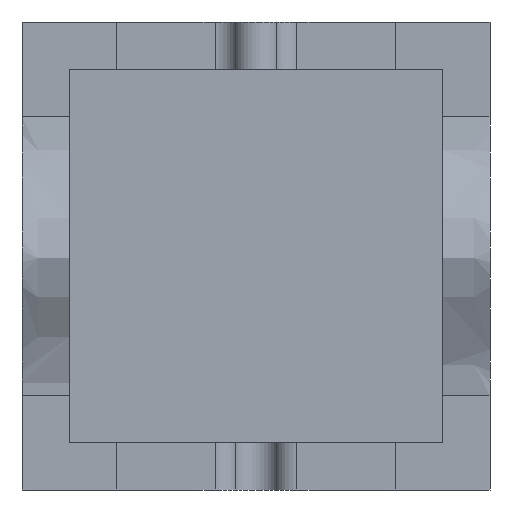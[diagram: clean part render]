
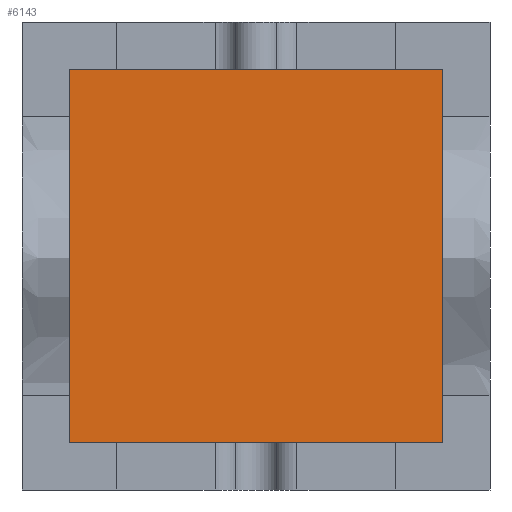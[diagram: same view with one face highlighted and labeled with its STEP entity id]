
A CAD part, front view. The second image highlights one B-rep face of the part: STEP entity #6143.
In plain terms, the highlighted planar face has unit normal (0, -1, 0).
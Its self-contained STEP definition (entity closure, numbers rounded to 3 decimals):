
#6017=CARTESIAN_POINT('Vertex',(-20.,-30.,-20.)) ;
#6022=CARTESIAN_POINT('Line Origine',(-20.,-30.,59.)) ;
#6026=CARTESIAN_POINT('Vertex',(-20.,-30.,138.)) ;
#6053=CARTESIAN_POINT('Line Origine',(59.,-30.,138.)) ;
#6057=CARTESIAN_POINT('Vertex',(138.,-30.,138.)) ;
#6084=CARTESIAN_POINT('Line Origine',(138.,-30.,59.)) ;
#6088=CARTESIAN_POINT('Vertex',(138.,-30.,-20.)) ;
#6115=CARTESIAN_POINT('Line Origine',(59.,-30.,-20.)) ;
#6132=CARTESIAN_POINT('Axis2P3D Location',(0.,-30.,0.)) ;
#6023=DIRECTION('Vector Direction',(0.,0.,-1.)) ;
#6054=DIRECTION('Vector Direction',(1.,0.,0.)) ;
#6085=DIRECTION('Vector Direction',(0.,0.,1.)) ;
#6116=DIRECTION('Vector Direction',(-1.,0.,0.)) ;
#6133=DIRECTION('Axis2P3D Direction',(0.,1.,0.)) ;
#6134=DIRECTION('Axis2P3D XDirection',(-1.,0.,0.)) ;
#6135=AXIS2_PLACEMENT_3D('Plane Axis2P3D',#6132,#6133,#6134) ;
#6138=ORIENTED_EDGE('',*,*,#6119,.F.) ;
#6139=ORIENTED_EDGE('',*,*,#6090,.F.) ;
#6140=ORIENTED_EDGE('',*,*,#6059,.F.) ;
#6141=ORIENTED_EDGE('',*,*,#6028,.F.) ;
#6024=VECTOR('Line Direction',#6023,1.) ;
#6055=VECTOR('Line Direction',#6054,1.) ;
#6086=VECTOR('Line Direction',#6085,1.) ;
#6117=VECTOR('Line Direction',#6116,1.) ;
#6143=ADVANCED_FACE('Cavity-molde',(#6142),#6136,.F.) ;
#6028=EDGE_CURVE('',#6018,#6027,#6025,.F.) ;
#6059=EDGE_CURVE('',#6027,#6058,#6056,.T.) ;
#6090=EDGE_CURVE('',#6058,#6089,#6087,.F.) ;
#6119=EDGE_CURVE('',#6089,#6018,#6118,.T.) ;
#6137=EDGE_LOOP('',(#6138,#6139,#6140,#6141)) ;
#6142=FACE_OUTER_BOUND('',#6137,.T.) ;
#6025=LINE('Line',#6022,#6024) ;
#6056=LINE('Line',#6053,#6055) ;
#6087=LINE('Line',#6084,#6086) ;
#6118=LINE('Line',#6115,#6117) ;
#6136=PLANE('',#6135) ;
#6018=VERTEX_POINT('',#6017) ;
#6027=VERTEX_POINT('',#6026) ;
#6058=VERTEX_POINT('',#6057) ;
#6089=VERTEX_POINT('',#6088) ;
